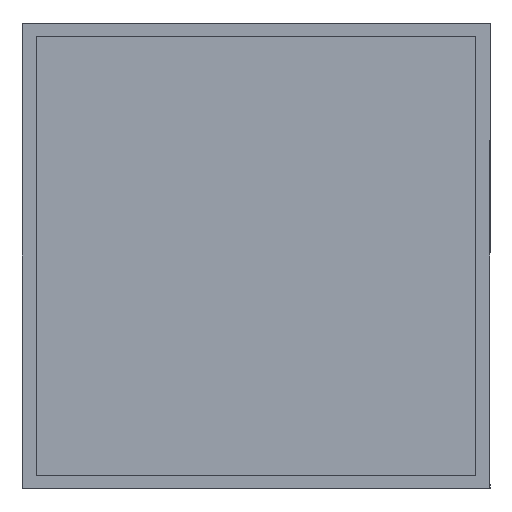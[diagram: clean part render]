
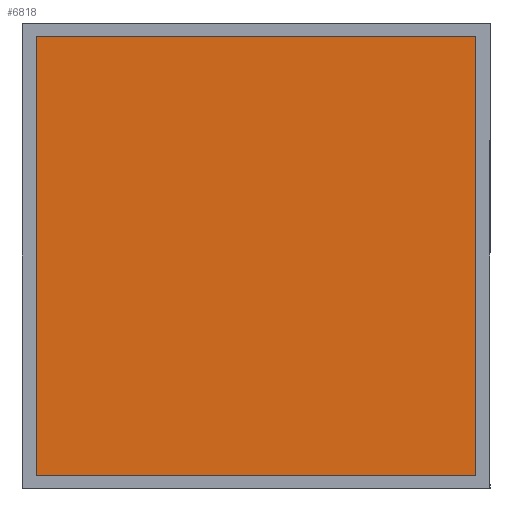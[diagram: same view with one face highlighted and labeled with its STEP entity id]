
A CAD part, front view. The second image highlights one B-rep face of the part: STEP entity #6818.
In plain terms, the highlighted planar face has unit normal (0, -1, 0).
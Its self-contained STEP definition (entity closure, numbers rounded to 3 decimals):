
#8 = CARTESIAN_POINT ( 'NONE',  ( -66.099, -0.416, 43.342 ) ) ;
#148 = ORIENTED_EDGE ( 'NONE', *, *, #3759, .F. ) ;
#286 = CARTESIAN_POINT ( 'NONE',  ( -66.099, -0.416, 43.342 ) ) ;
#357 = DIRECTION ( 'NONE',  ( 1., 0., 0. ) ) ;
#398 = VERTEX_POINT ( 'NONE', #633 ) ;
#499 = CARTESIAN_POINT ( 'NONE',  ( -66.099, -0.416, 43.342 ) ) ;
#597 = LINE ( 'NONE', #4525, #5439 ) ;
#633 = CARTESIAN_POINT ( 'NONE',  ( -31.099, -0.416, 43.342 ) ) ;
#1056 = PLANE ( 'NONE',  #5103 ) ;
#1448 = ORIENTED_EDGE ( 'NONE', *, *, #2330, .F. ) ;
#1470 = LINE ( 'NONE', #286, #3751 ) ;
#1775 = VERTEX_POINT ( 'NONE', #8 ) ;
#1815 = CARTESIAN_POINT ( 'NONE',  ( -31.099, -0.416, 8.342 ) ) ;
#1907 = EDGE_CURVE ( 'NONE', #7259, #2623, #597, .T. ) ;
#2099 = DIRECTION ( 'NONE',  ( 0., 1., 0. ) ) ;
#2330 = EDGE_CURVE ( 'NONE', #1775, #398, #1470, .T. ) ;
#2331 = DIRECTION ( 'NONE',  ( 0., 0., 1. ) ) ;
#2623 = VERTEX_POINT ( 'NONE', #4713 ) ;
#2886 = DIRECTION ( 'NONE',  ( -1., 0., 0. ) ) ;
#2932 = LINE ( 'NONE', #1815, #5334 ) ;
#3214 = FACE_OUTER_BOUND ( 'NONE', #3284, .T. ) ;
#3284 = EDGE_LOOP ( 'NONE', ( #5448, #5488, #148, #1448 ) ) ;
#3751 = VECTOR ( 'NONE', #357, 1000. ) ;
#3759 = EDGE_CURVE ( 'NONE', #398, #7259, #2932, .T. ) ;
#3806 = DIRECTION ( 'NONE',  ( 0., 0., 1. ) ) ;
#4525 = CARTESIAN_POINT ( 'NONE',  ( -66.099, -0.416, 8.342 ) ) ;
#4527 = CARTESIAN_POINT ( 'NONE',  ( -66.099, -0.416, 8.342 ) ) ;
#4713 = CARTESIAN_POINT ( 'NONE',  ( -66.099, -0.416, 8.342 ) ) ;
#5083 = LINE ( 'NONE', #4527, #6445 ) ;
#5103 = AXIS2_PLACEMENT_3D ( 'NONE', #499, #2099, #3806 ) ;
#5167 = DIRECTION ( 'NONE',  ( 0., 0., -1. ) ) ;
#5334 = VECTOR ( 'NONE', #5167, 1000. ) ;
#5439 = VECTOR ( 'NONE', #2886, 1000. ) ;
#5448 = ORIENTED_EDGE ( 'NONE', *, *, #5654, .F. ) ;
#5488 = ORIENTED_EDGE ( 'NONE', *, *, #1907, .F. ) ;
#5654 = EDGE_CURVE ( 'NONE', #2623, #1775, #5083, .T. ) ;
#6068 = CARTESIAN_POINT ( 'NONE',  ( -31.099, -0.416, 8.342 ) ) ;
#6445 = VECTOR ( 'NONE', #2331, 1000. ) ;
#6818 = ADVANCED_FACE ( 'NONE', ( #3214 ), #1056, .F. ) ;
#7259 = VERTEX_POINT ( 'NONE', #6068 ) ;
